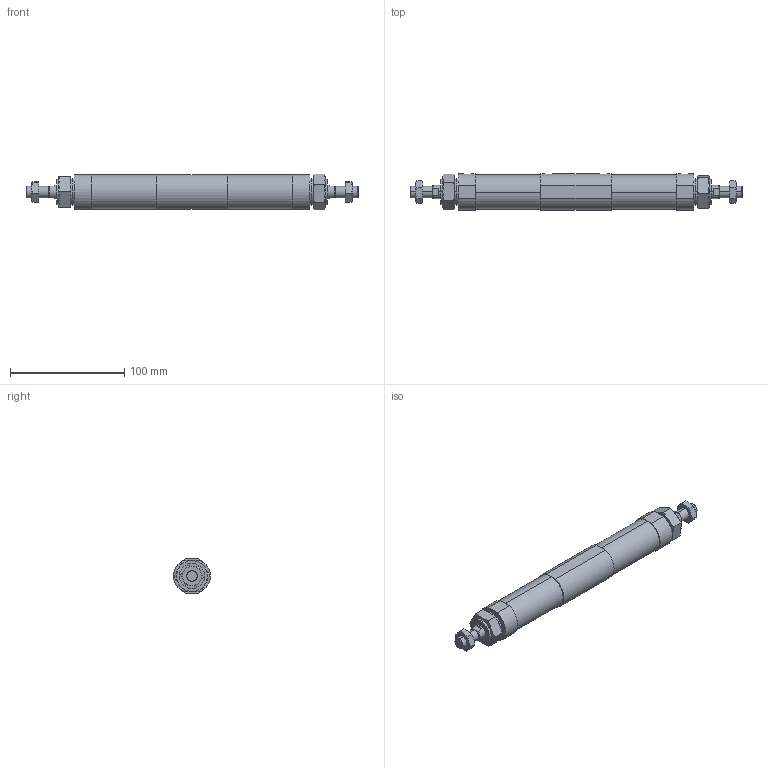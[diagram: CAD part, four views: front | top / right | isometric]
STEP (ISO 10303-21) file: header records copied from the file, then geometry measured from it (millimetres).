
FILE_DESCRIPTION (( 'STEP AP203' ), '1' );
FILE_NAME ('JGD7-25-25-25-N.STEP', '2016-04-19T07:23:08', ( '' ), ( '' ), 'SwSTEP 2.0', 'SolidWorks 2014', '' );
FILE_SCHEMA (( 'CONFIG_CONTROL_DESIGN' ));
Length unit declared in the file: millimetre
Products named in the file (6): JGD2-25MI; 25-25; JGLH2-25B; M22x1.5-10mm; JGD7-25-25-25-N; M10x1.5-6mm
Assembly tree (9 placements, depth 2):
  JGD7-25-25-25-N
    JGLH2-25B  x2
    25-25  x2
    JGD2-25MI
    M10x1.5-6mm  x2
    M22x1.5-10mm  x2
Bounding box: 290 x 32 x 31.02 mm (x, y, z)
Volume: 172538.4 mm3; surface area: 39636.5 mm2
Topology: 9 solids, 9 shells, 172 faces, 376 edges, 224 vertices
Faces by surface type: plane 66, torus 48, cylinder 42, cone 16
Entity records: 3624 total; most frequent: CARTESIAN_POINT 914, DIRECTION 424, ORIENTED_EDGE 396, EDGE_CURVE 198, AXIS2_PLACEMENT_3D 179, VERTEX_POINT 121, EDGE_LOOP 103, FACE_OUTER_BOUND 93
